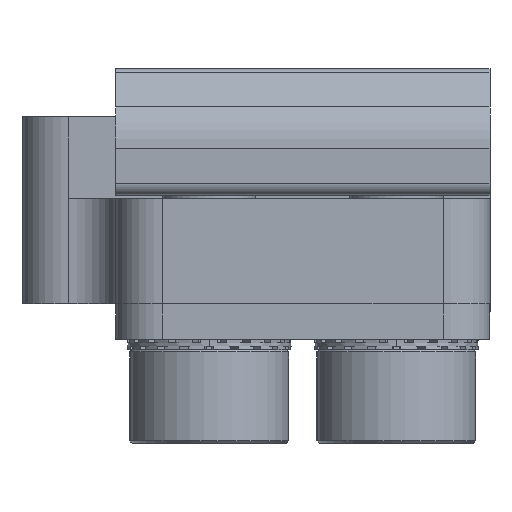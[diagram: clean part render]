
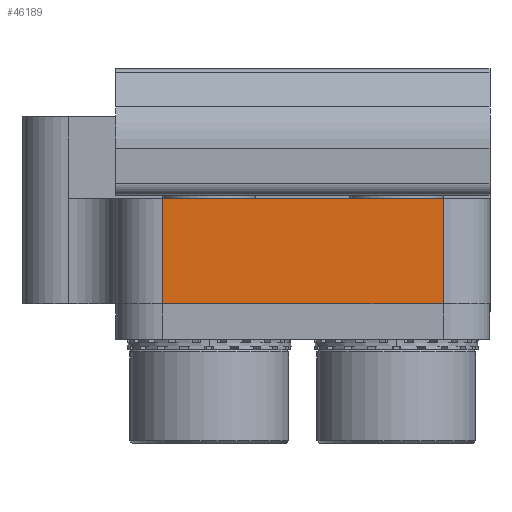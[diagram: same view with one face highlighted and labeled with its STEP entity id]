
A CAD part, front view. The second image highlights one B-rep face of the part: STEP entity #46189.
In plain terms, the highlighted planar face has unit normal (0, -1, 0).
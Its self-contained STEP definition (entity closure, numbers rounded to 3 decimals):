
#524 = DIRECTION ( 'NONE',  ( 0., 0., 1. ) ) ;
#937 = VECTOR ( 'NONE', #37815, 1000. ) ;
#2064 = LINE ( 'NONE', #33460, #3220 ) ;
#3220 = VECTOR ( 'NONE', #524, 1000. ) ;
#4146 = VERTEX_POINT ( 'NONE', #33191 ) ;
#6708 = LINE ( 'NONE', #22712, #25046 ) ;
#9096 = CARTESIAN_POINT ( 'NONE',  ( 0., -4.559, 0. ) ) ;
#9398 = DIRECTION ( 'NONE',  ( 0., 1., 0. ) ) ;
#10711 = EDGE_CURVE ( 'NONE', #46942, #20484, #17155, .T. ) ;
#11651 = DIRECTION ( 'NONE',  ( 1., 0., 0. ) ) ;
#12171 = CARTESIAN_POINT ( 'NONE',  ( -67.516, -4.559, 0. ) ) ;
#12473 = LINE ( 'NONE', #12171, #937 ) ;
#13314 = ORIENTED_EDGE ( 'NONE', *, *, #24550, .T. ) ;
#14490 = CARTESIAN_POINT ( 'NONE',  ( -67.516, -4.559, 8.836 ) ) ;
#15127 = DIRECTION ( 'NONE',  ( -1., 0., 0. ) ) ;
#15726 = EDGE_CURVE ( 'NONE', #4146, #46942, #2064, .T. ) ;
#17155 = LINE ( 'NONE', #37097, #42424 ) ;
#18007 = ORIENTED_EDGE ( 'NONE', *, *, #15726, .T. ) ;
#19977 = PLANE ( 'NONE',  #47066 ) ;
#20484 = VERTEX_POINT ( 'NONE', #47147 ) ;
#22712 = CARTESIAN_POINT ( 'NONE',  ( -53.516, -4.559, 8.836 ) ) ;
#23868 = EDGE_LOOP ( 'NONE', ( #28445, #13314, #39087, #18007 ) ) ;
#24550 = EDGE_CURVE ( 'NONE', #20484, #42557, #12473, .T. ) ;
#25046 = VECTOR ( 'NONE', #11651, 1000. ) ;
#27089 = DIRECTION ( 'NONE',  ( 0., 0., 1. ) ) ;
#28445 = ORIENTED_EDGE ( 'NONE', *, *, #10711, .T. ) ;
#33191 = CARTESIAN_POINT ( 'NONE',  ( -55.516, -4.559, 8.836 ) ) ;
#33460 = CARTESIAN_POINT ( 'NONE',  ( -55.516, -4.559, 13.336 ) ) ;
#34266 = FACE_OUTER_BOUND ( 'NONE', #23868, .T. ) ;
#37097 = CARTESIAN_POINT ( 'NONE',  ( -69.516, -4.559, 13.336 ) ) ;
#37815 = DIRECTION ( 'NONE',  ( 0., 0., -1. ) ) ;
#39087 = ORIENTED_EDGE ( 'NONE', *, *, #40949, .T. ) ;
#40949 = EDGE_CURVE ( 'NONE', #42557, #4146, #6708, .T. ) ;
#42424 = VECTOR ( 'NONE', #15127, 1000. ) ;
#42557 = VERTEX_POINT ( 'NONE', #14490 ) ;
#44038 = CARTESIAN_POINT ( 'NONE',  ( -55.516, -4.559, 13.336 ) ) ;
#46189 = ADVANCED_FACE ( 'NONE', ( #34266 ), #19977, .F. ) ;
#46942 = VERTEX_POINT ( 'NONE', #44038 ) ;
#47066 = AXIS2_PLACEMENT_3D ( 'NONE', #9096, #9398, #27089 ) ;
#47147 = CARTESIAN_POINT ( 'NONE',  ( -67.516, -4.559, 13.336 ) ) ;
